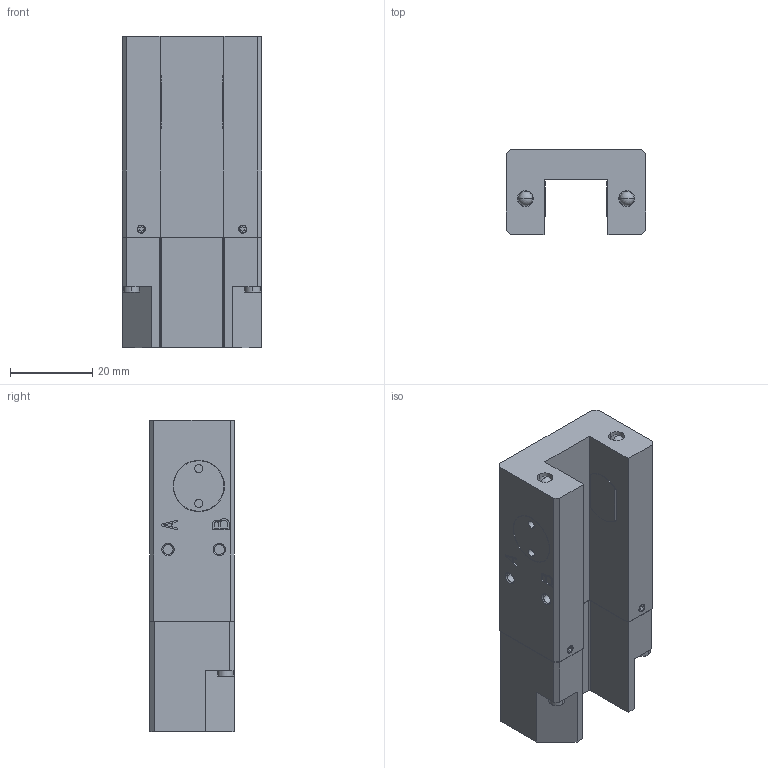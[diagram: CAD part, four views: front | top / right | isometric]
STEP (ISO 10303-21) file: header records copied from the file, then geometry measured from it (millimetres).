
FILE_DESCRIPTION( ( '' ), '1' );
FILE_NAME( 'E:/04 嬴檜蠱滌/0404 ZIMMER/040414 ZIMMER CAD download/LKPS/LKPS1501AS2---.stp', '2020-04-16T09:46:51', ( '' ), ( '' ), ' ', ' ', ' ' );
FILE_SCHEMA( ( 'automotive_design' ) );
Length unit declared in the file: millimetre
Products named in the file (1): 1
Bounding box: 34 x 20.7 x 75.9 mm (x, y, z)
Volume: 35938.6 mm3; surface area: 12296.4 mm2
Topology: 1 solids, 1 shells, 305 faces, 722 edges, 474 vertices
Faces by surface type: plane 195, cylinder 82, cone 20, sphere 4, torus 4
Entity records: 17180 total; most frequent: DIRECTION 1546, STYLED_ITEM 1498, PRESENTATION_STYLE_ASSIGNMENT 1498, CARTESIAN_POINT 1498, COLOUR_RGB 1498, ORIENTED_EDGE 1436, EDGE_CURVE 718, CURVE_STYLE 718
